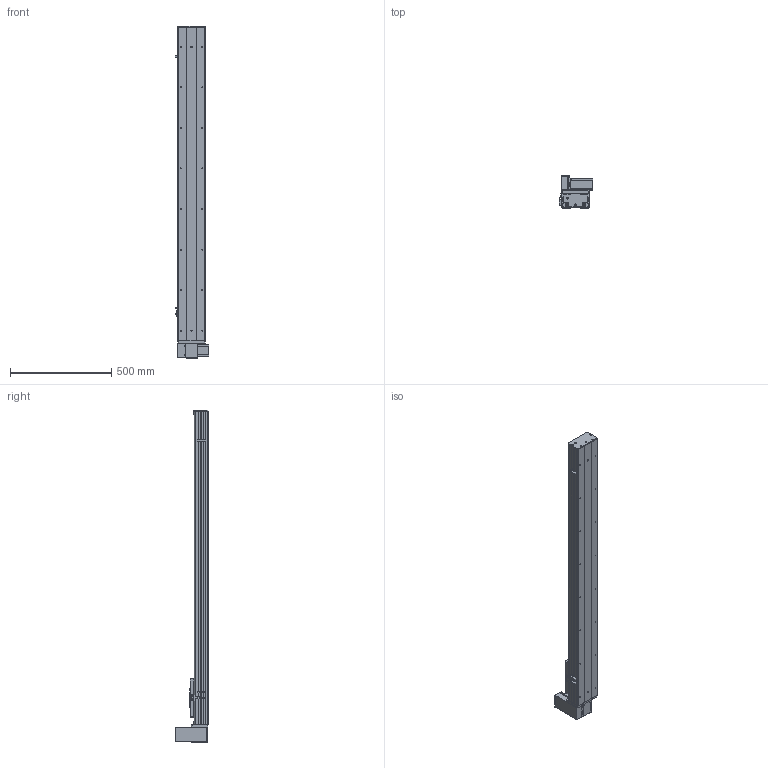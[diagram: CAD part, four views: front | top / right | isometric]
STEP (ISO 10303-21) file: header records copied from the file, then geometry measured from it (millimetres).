
FILE_DESCRIPTION (( 'STEP AP203' ), '1' );
FILE_NAME ('Y135CB-D90-S1250-UR-P400W.STEP', '2020-02-18T04:10:03', ( '微软用户' ), ( '微软中国' ), 'SwSTEP 2.0', 'SolidWorks 2017', '' );
FILE_SCHEMA (( 'CONFIG_CONTROL_DESIGN' ));
Length unit declared in the file: millimetre
Products named in the file (18): 0B-萇儂楊擘啣; Y10B--々湍喘謫眊--666; san松下电机400不带刹车----; Y10B-耜蚾蟀諉啣----; 5CB --掛极耜裔啣-; 00B-俋欶BM--; C-詩湍揤踡え-陔; Y135CB-耜裔; Y135CB-D90-S1250-UR-P400W; 135CB--詩湍-CE; 135CB---遴掛极.-; Y100-135俋离換覜ん--; 35CB---喘謫眊楊擘啣; Y135C-陔俋离換覜結え-; 0B-埴倛裔啣; 5C--俋欶; 0B-源倛裔啣; C-雄赽釱--
Assembly tree (21 placements, depth 2):
  Y135CB-D90-S1250-UR-P400W
    Y135CB-耜裔
    135CB---遴掛极.-
    35CB---喘謫眊楊擘啣
    0B-埴倛裔啣
    0B-源倛裔啣
    0B-萇儂楊擘啣
    san松下电机400不带刹车----
    5CB --掛极耜裔啣-  x2
    C-詩湍揤踡え-陔  x2
    135CB--詩湍-CE
    Y100-135俋离換覜ん--  x3
    Y135C-陔俋离換覜結え-
    5C--俋欶
    C-雄赽釱--
    Y10B--々湍喘謫眊--666
    Y10B-耜蚾蟀諉啣----
    00B-俋欶BM--
Bounding box: 167.5 x 158.7 x 1638 mm (x, y, z)
Volume: 5035737.4 mm3; surface area: 1976824.6 mm2
Topology: 21 solids, 21 shells, 949 faces, 2545 edges, 1686 vertices
Faces by surface type: cylinder 477, plane 456, cone 16
Entity records: 29551 total; most frequent: DIRECTION 4909, CARTESIAN_POINT 4856, ORIENTED_EDGE 4566, EDGE_CURVE 2283, AXIS2_PLACEMENT_3D 1791, VERTEX_POINT 1514, VECTOR 1327, LINE 1327
